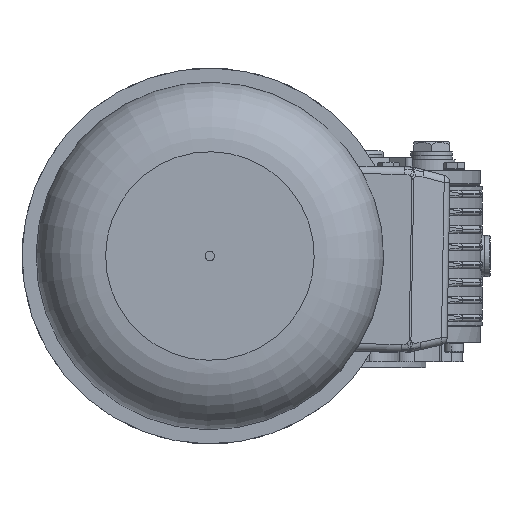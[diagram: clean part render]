
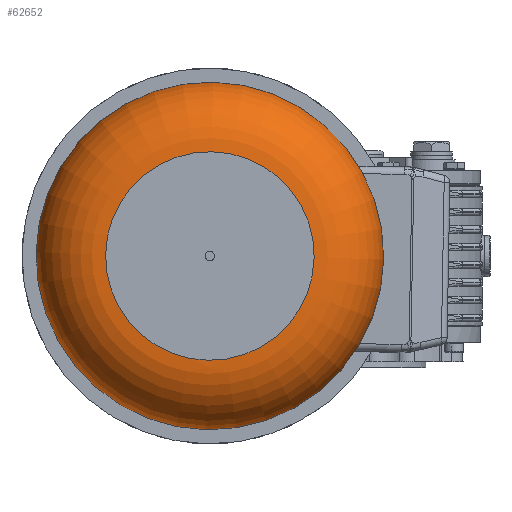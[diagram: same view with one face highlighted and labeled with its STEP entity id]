
A CAD part, left-side view. The second image highlights one B-rep face of the part: STEP entity #62652.
In plain terms, the highlighted toroidal (fillet/blend) face has major radius 55.5 mm and minor radius 37 mm.
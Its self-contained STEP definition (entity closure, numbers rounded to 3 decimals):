
#62625=CARTESIAN_POINT('',(399.,0.0,0.0));
#62626=DIRECTION('',(1.0,0.0,0.0));
#62627=DIRECTION('',(0.0,0.0,-1.0));
#62628=AXIS2_PLACEMENT_3D('',#62625,#62626,#62627);
#62629=TOROIDAL_SURFACE('',#62628,55.5,37.0);
#62630=CARTESIAN_POINT('',(436.,55.5,0.0));
#62631=VERTEX_POINT('',#62630);
#62632=CARTESIAN_POINT('',(436.,0.0,0.0));
#62633=DIRECTION('',(1.0,0.0,0.0));
#62634=DIRECTION('',(0.0,1.0,0.0));
#62635=AXIS2_PLACEMENT_3D('',#62632,#62633,#62634);
#62636=CIRCLE('',#62635,55.5);
#62637=EDGE_CURVE('',#62631,#62631,#62636,.T.);
#62638=ORIENTED_EDGE('',*,*,#62637,.F.);
#62639=EDGE_LOOP('',(#62638));
#62640=FACE_OUTER_BOUND('',#62639,.T.);
#62641=CARTESIAN_POINT('',(399.,92.5,0.0));
#62642=VERTEX_POINT('',#62641);
#62643=CARTESIAN_POINT('',(399.,0.0,0.0));
#62644=DIRECTION('',(1.0,0.0,0.0));
#62645=DIRECTION('',(0.0,1.0,0.0));
#62646=AXIS2_PLACEMENT_3D('',#62643,#62644,#62645);
#62647=CIRCLE('',#62646,92.5);
#62648=EDGE_CURVE('',#62642,#62642,#62647,.T.);
#62649=ORIENTED_EDGE('',*,*,#62648,.T.);
#62650=EDGE_LOOP('',(#62649));
#62651=FACE_BOUND('',#62650,.T.);
#62652=ADVANCED_FACE('',(#62640,#62651),#62629,.T.);
